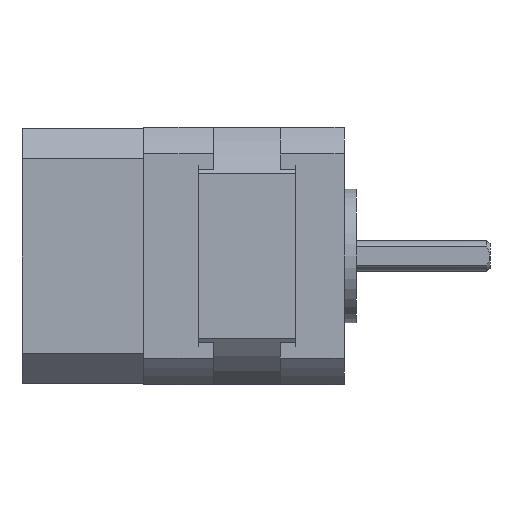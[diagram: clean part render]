
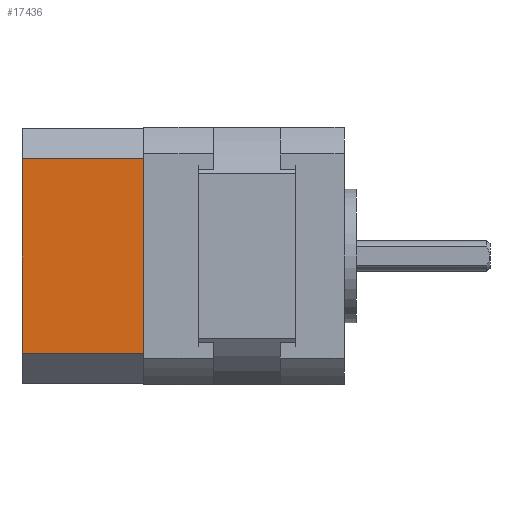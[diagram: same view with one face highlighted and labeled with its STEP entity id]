
A CAD part, left-side view. The second image highlights one B-rep face of the part: STEP entity #17436.
In plain terms, the highlighted planar face has unit normal (-1, 0, 0).
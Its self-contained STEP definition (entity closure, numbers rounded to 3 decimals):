
#763 = PLANE ( 'NONE',  #11487 ) ;
#866 = LINE ( 'NONE', #10909, #11970 ) ;
#960 = ORIENTED_EDGE ( 'NONE', *, *, #15637, .F. ) ;
#1795 = VECTOR ( 'NONE', #5507, 1000. ) ;
#2290 = VECTOR ( 'NONE', #13409, 1000. ) ;
#2670 = VERTEX_POINT ( 'NONE', #10543 ) ;
#2921 = CARTESIAN_POINT ( 'NONE',  ( -21., 0., -16. ) ) ;
#3282 = CARTESIAN_POINT ( 'NONE',  ( -21., 20., 16. ) ) ;
#3340 = ORIENTED_EDGE ( 'NONE', *, *, #15663, .T. ) ;
#3962 = CARTESIAN_POINT ( 'NONE',  ( -21., 20., 16. ) ) ;
#4113 = DIRECTION ( 'NONE',  ( 0., 0., 1. ) ) ;
#4360 = VERTEX_POINT ( 'NONE', #2921 ) ;
#5507 = DIRECTION ( 'NONE',  ( 0., 0., 1. ) ) ;
#6586 = DIRECTION ( 'NONE',  ( 1., 0., 0. ) ) ;
#6702 = VERTEX_POINT ( 'NONE', #3962 ) ;
#9063 = LINE ( 'NONE', #9826, #1795 ) ;
#9826 = CARTESIAN_POINT ( 'NONE',  ( -21., 20., -21. ) ) ;
#10419 = ORIENTED_EDGE ( 'NONE', *, *, #16143, .T. ) ;
#10543 = CARTESIAN_POINT ( 'NONE',  ( -21., 20., -16. ) ) ;
#10909 = CARTESIAN_POINT ( 'NONE',  ( -21., 20., -16. ) ) ;
#11487 = AXIS2_PLACEMENT_3D ( 'NONE', #15240, #6586, #16710 ) ;
#11970 = VECTOR ( 'NONE', #15253, 1000. ) ;
#11986 = VECTOR ( 'NONE', #4113, 1000. ) ;
#12949 = CARTESIAN_POINT ( 'NONE',  ( -21., 0., 16. ) ) ;
#13409 = DIRECTION ( 'NONE',  ( 0., 1., 0. ) ) ;
#13848 = LINE ( 'NONE', #3282, #2290 ) ;
#14230 = EDGE_CURVE ( 'NONE', #15740, #6702, #13848, .T. ) ;
#15240 = CARTESIAN_POINT ( 'NONE',  ( -21., 20., -21. ) ) ;
#15253 = DIRECTION ( 'NONE',  ( 0., -1., 0. ) ) ;
#15505 = ORIENTED_EDGE ( 'NONE', *, *, #14230, .T. ) ;
#15637 = EDGE_CURVE ( 'NONE', #2670, #6702, #9063, .T. ) ;
#15663 = EDGE_CURVE ( 'NONE', #4360, #15740, #15814, .T. ) ;
#15740 = VERTEX_POINT ( 'NONE', #12949 ) ;
#15814 = LINE ( 'NONE', #17065, #11986 ) ;
#16143 = EDGE_CURVE ( 'NONE', #2670, #4360, #866, .T. ) ;
#16710 = DIRECTION ( 'NONE',  ( 0., 0., -1. ) ) ;
#16923 = FACE_OUTER_BOUND ( 'NONE', #18599, .T. ) ;
#17065 = CARTESIAN_POINT ( 'NONE',  ( -21., 0., -21. ) ) ;
#17436 = ADVANCED_FACE ( 'NONE', ( #16923 ), #763, .F. ) ;
#18599 = EDGE_LOOP ( 'NONE', ( #960, #10419, #3340, #15505 ) ) ;
